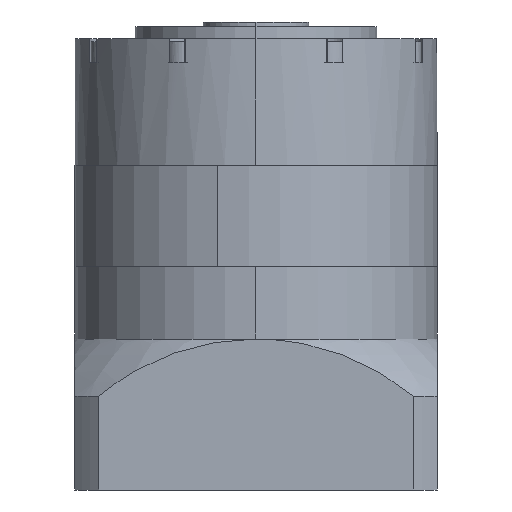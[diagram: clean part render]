
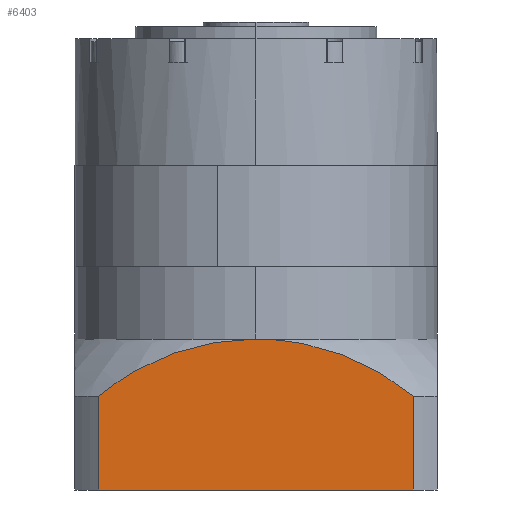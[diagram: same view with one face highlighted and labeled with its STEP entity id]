
A CAD part, left-side view. The second image highlights one B-rep face of the part: STEP entity #6403.
In plain terms, the highlighted planar face has unit normal (-1, 0, 0) as drawn and (0, -1, 0) by its records, which use the part's own axes.
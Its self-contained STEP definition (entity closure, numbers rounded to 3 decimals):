
#594 = VERTEX_POINT ( 'NONE', #17023 ) ;
#1180 = CARTESIAN_POINT ( 'NONE',  ( 38.544, -60., -12.696 ) ) ;
#1262 = CARTESIAN_POINT ( 'NONE',  ( 4.752, -60., -3. ) ) ;
#1400 = ORIENTED_EDGE ( 'NONE', *, *, #6268, .T. ) ;
#1774 = CARTESIAN_POINT ( 'NONE',  ( -36.944, -60., -11.877 ) ) ;
#2728 = CARTESIAN_POINT ( 'NONE',  ( -52.156, -60., 0. ) ) ;
#2952 = CARTESIAN_POINT ( 'NONE',  ( 50.347, -60., -20.477 ) ) ;
#3021 = CARTESIAN_POINT ( 'NONE',  ( 31.652, -60., -9.406 ) ) ;
#3525 = CARTESIAN_POINT ( 'NONE',  ( -5.902, -60., -3.154 ) ) ;
#3592 = CARTESIAN_POINT ( 'NONE',  ( -39.537, -60., -13.278 ) ) ;
#4048 = VERTEX_POINT ( 'NONE', #4196 ) ;
#4196 = CARTESIAN_POINT ( 'NONE',  ( 0., -60., -3. ) ) ;
#4403 = CARTESIAN_POINT ( 'NONE',  ( -60., -60., -53. ) ) ;
#4425 = B_SPLINE_CURVE_WITH_KNOTS ( 'NONE', 3,
 ( #22043, #24108, #3525, #16557, #5349, #18457, #7207, #20404, #9047, #22293, #10946, #24186, #12836, #1774, #14726, #3592, #16633, #5431, #18541, #7279 ),
 .UNSPECIFIED., .F., .F.,
 ( 4, 1, 2, 2, 1, 2, 2, 1, 1, 2, 2, 4 ),
 ( 0., 0.125, 0.188, 0.25, 0.375, 0.437, 0.5, 0.625, 0.688, 0.719, 0.75, 1. ),
 .UNSPECIFIED. ) ;
#4522 = VERTEX_POINT ( 'NONE', #7202 ) ;
#4853 = CARTESIAN_POINT ( 'NONE',  ( 28.917, -60., -8.32 ) ) ;
#5347 = LINE ( 'NONE', #2728, #14681 ) ;
#5349 = CARTESIAN_POINT ( 'NONE',  ( -11.756, -60., -3.846 ) ) ;
#5431 = CARTESIAN_POINT ( 'NONE',  ( -44.668, -60., -16.236 ) ) ;
#6146 = CARTESIAN_POINT ( 'NONE',  ( 52.156, -60., -53. ) ) ;
#6237 = DIRECTION ( 'NONE',  ( 0., -1., 0. ) ) ;
#6268 = EDGE_CURVE ( 'NONE', #4522, #11643, #19089, .T. ) ;
#6396 = DIRECTION ( 'NONE',  ( 0., 0., -1. ) ) ;
#6403 = ADVANCED_FACE ( 'NONE', ( #11734 ), #7676, .T. ) ;
#6654 = DIRECTION ( 'NONE',  ( 0., 0., 1. ) ) ;
#6681 = CARTESIAN_POINT ( 'NONE',  ( 25.588, -60., -7.099 ) ) ;
#7202 = CARTESIAN_POINT ( 'NONE',  ( -52.156, -60., -53. ) ) ;
#7207 = CARTESIAN_POINT ( 'NONE',  ( -16.421, -60., -4.641 ) ) ;
#7279 = CARTESIAN_POINT ( 'NONE',  ( -52.156, -60., -22. ) ) ;
#7408 = AXIS2_PLACEMENT_3D ( 'NONE', #4403, #6237, #19375 ) ;
#7676 = PLANE ( 'NONE',  #7408 ) ;
#8446 = CARTESIAN_POINT ( 'NONE',  ( 44.117, -60., -16.024 ) ) ;
#8530 = CARTESIAN_POINT ( 'NONE',  ( 18.201, -60., -5.049 ) ) ;
#8656 = EDGE_CURVE ( 'NONE', #4048, #23841, #4425, .T. ) ;
#9047 = CARTESIAN_POINT ( 'NONE',  ( -23.277, -60., -6.397 ) ) ;
#9550 = ORIENTED_EDGE ( 'NONE', *, *, #23816, .T. ) ;
#10346 = CARTESIAN_POINT ( 'NONE',  ( 41.604, -60., -14.475 ) ) ;
#10425 = CARTESIAN_POINT ( 'NONE',  ( 15.307, -60., -4.452 ) ) ;
#10503 = CARTESIAN_POINT ( 'NONE',  ( -52.156, -60., -22. ) ) ;
#10946 = CARTESIAN_POINT ( 'NONE',  ( -26.648, -60., -7.487 ) ) ;
#11038 = CARTESIAN_POINT ( 'NONE',  ( 0., -60., -53. ) ) ;
#11308 = ORIENTED_EDGE ( 'NONE', *, *, #19705, .T. ) ;
#11562 = B_SPLINE_CURVE_WITH_KNOTS ( 'NONE', 3,
 ( #15963, #2952, #19776, #8446, #21702, #10346, #23580, #12252, #1180, #14111, #3021, #16037, #4853, #17949, #6681, #19865, #8530, #21774, #10425, #23669, #12321, #1262, #14195 ),
 .UNSPECIFIED., .F., .F.,
 ( 4, 1, 1, 1, 2, 2, 1, 1, 2, 2, 1, 1, 2, 2, 4 ),
 ( 0., 0.125, 0.187, 0.219, 0.234, 0.25, 0.375, 0.437, 0.469, 0.5, 0.625, 0.687, 0.719, 0.75, 1. ),
 .UNSPECIFIED. ) ;
#11643 = VERTEX_POINT ( 'NONE', #6146 ) ;
#11734 = FACE_OUTER_BOUND ( 'NONE', #18748, .T. ) ;
#12252 = CARTESIAN_POINT ( 'NONE',  ( 40.839, -60., -14.024 ) ) ;
#12321 = CARTESIAN_POINT ( 'NONE',  ( 9.466, -60., -3.413 ) ) ;
#12724 = LINE ( 'NONE', #19833, #16541 ) ;
#12836 = CARTESIAN_POINT ( 'NONE',  ( -33.248, -60., -10.053 ) ) ;
#14057 = VECTOR ( 'NONE', #22384, 1000. ) ;
#14111 = CARTESIAN_POINT ( 'NONE',  ( 35.417, -60., -11.065 ) ) ;
#14195 = CARTESIAN_POINT ( 'NONE',  ( 0., -60., -3. ) ) ;
#14681 = VECTOR ( 'NONE', #6396, 1000. ) ;
#14726 = CARTESIAN_POINT ( 'NONE',  ( -38.503, -60., -12.711 ) ) ;
#15963 = CARTESIAN_POINT ( 'NONE',  ( 52.156, -60., -22. ) ) ;
#16037 = CARTESIAN_POINT ( 'NONE',  ( 30.014, -60., -8.747 ) ) ;
#16541 = VECTOR ( 'NONE', #6654, 1000. ) ;
#16557 = CARTESIAN_POINT ( 'NONE',  ( -9.417, -60., -3.538 ) ) ;
#16633 = CARTESIAN_POINT ( 'NONE',  ( -40.05, -60., -13.567 ) ) ;
#17023 = CARTESIAN_POINT ( 'NONE',  ( 52.156, -60., -22. ) ) ;
#17949 = CARTESIAN_POINT ( 'NONE',  ( 28.367, -60., -8.112 ) ) ;
#18457 = CARTESIAN_POINT ( 'NONE',  ( -12.921, -60., -4.025 ) ) ;
#18541 = CARTESIAN_POINT ( 'NONE',  ( -48.532, -60., -18.948 ) ) ;
#18559 = ORIENTED_EDGE ( 'NONE', *, *, #21801, .T. ) ;
#18748 = EDGE_LOOP ( 'NONE', ( #11308, #9550, #22136, #18559, #1400 ) ) ;
#19089 = LINE ( 'NONE', #11038, #14057 ) ;
#19375 = DIRECTION ( 'NONE',  ( 0., 0., -1. ) ) ;
#19705 = EDGE_CURVE ( 'NONE', #11643, #594, #12724, .T. ) ;
#19776 = CARTESIAN_POINT ( 'NONE',  ( 47.544, -60., -18.319 ) ) ;
#19833 = CARTESIAN_POINT ( 'NONE',  ( 52.156, -60., 0. ) ) ;
#19865 = CARTESIAN_POINT ( 'NONE',  ( 22.212, -60., -6.032 ) ) ;
#20404 = CARTESIAN_POINT ( 'NONE',  ( -19.879, -60., -5.407 ) ) ;
#21702 = CARTESIAN_POINT ( 'NONE',  ( 42.364, -60., -14.931 ) ) ;
#21774 = CARTESIAN_POINT ( 'NONE',  ( 16.467, -60., -4.684 ) ) ;
#21801 = EDGE_CURVE ( 'NONE', #23841, #4522, #5347, .T. ) ;
#22043 = CARTESIAN_POINT ( 'NONE',  ( 0., -60., -3. ) ) ;
#22136 = ORIENTED_EDGE ( 'NONE', *, *, #8656, .T. ) ;
#22293 = CARTESIAN_POINT ( 'NONE',  ( -25.528, -60., -7.106 ) ) ;
#22384 = DIRECTION ( 'NONE',  ( 1., 0., 0. ) ) ;
#23580 = CARTESIAN_POINT ( 'NONE',  ( 41.096, -60., -14.174 ) ) ;
#23669 = CARTESIAN_POINT ( 'NONE',  ( 14.727, -60., -4.343 ) ) ;
#23816 = EDGE_CURVE ( 'NONE', #594, #4048, #11562, .T. ) ;
#23841 = VERTEX_POINT ( 'NONE', #10503 ) ;
#24108 = CARTESIAN_POINT ( 'NONE',  ( -2.366, -60., -3. ) ) ;
#24186 = CARTESIAN_POINT ( 'NONE',  ( -29.981, -60., -8.7 ) ) ;
